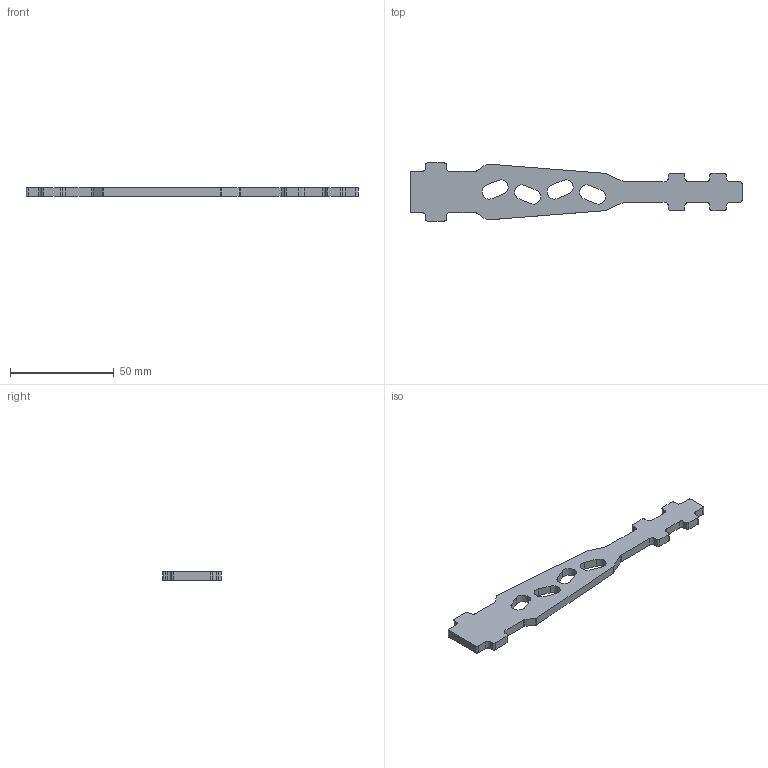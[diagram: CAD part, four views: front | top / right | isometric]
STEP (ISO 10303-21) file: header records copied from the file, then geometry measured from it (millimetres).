
FILE_DESCRIPTION(('FreeCAD Model'),'2;1');
FILE_NAME('Open CASCADE Shape Model','2026-10-17T00:49:22',(''),(''), 'Open CASCADE STEP processor 7.8','FreeCAD','Unknown');
FILE_SCHEMA(('AUTOMOTIVE_DESIGN { 1 0 10303 214 1 1 1 1 }'));
Length unit declared in the file: millimetre
Products named in the file (1): 02 Bras court
Bounding box: 160 x 28 x 4 mm (x, y, z)
Volume: 10501 mm3; surface area: 7342.4 mm2
Topology: 1 solids, 1 shells, 90 faces, 264 edges, 176 vertices
Faces by surface type: plane 46, cylinder 44
Entity records: 3042 total; most frequent: DIRECTION 534, CARTESIAN_POINT 531, ORIENTED_EDGE 528, EDGE_CURVE 264, AXIS2_PLACEMENT_3D 179, VERTEX_POINT 176, LINE 176, VECTOR 176
